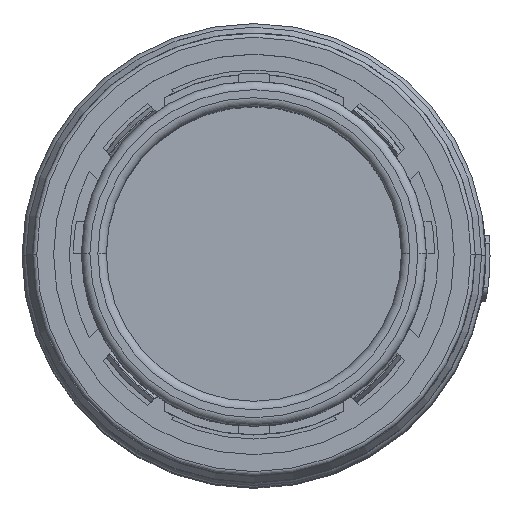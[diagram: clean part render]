
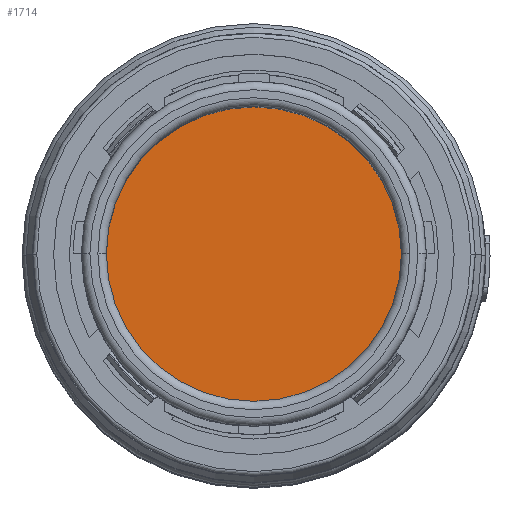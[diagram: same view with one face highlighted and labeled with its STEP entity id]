
A CAD part, top view. The second image highlights one B-rep face of the part: STEP entity #1714.
In plain terms, the highlighted planar face has unit normal (0, 0, 1).
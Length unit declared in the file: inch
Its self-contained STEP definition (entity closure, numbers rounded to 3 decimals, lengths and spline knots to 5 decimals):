
#80 = CARTESIAN_POINT ( 'NONE',  ( 0., 0., -0.99353 ) ) ;
#88 = CIRCLE ( 'NONE', #7275, 0.35 ) ;
#491 = VERTEX_POINT ( 'NONE', #11677 ) ;
#529 = DIRECTION ( 'NONE',  ( 0., 0., -1. ) ) ;
#640 = ORIENTED_EDGE ( 'NONE', *, *, #1780, .F. ) ;
#1714 = ADVANCED_FACE ( 'NONE', ( #15282 ), #15132, .F. ) ;
#1780 = EDGE_CURVE ( 'NONE', #5288, #491, #88, .T. ) ;
#2114 = DIRECTION ( 'NONE',  ( 0., 0., -1. ) ) ;
#2609 = EDGE_LOOP ( 'NONE', ( #640, #7367 ) ) ;
#3426 = DIRECTION ( 'NONE',  ( 0., 0., -1. ) ) ;
#4016 = CARTESIAN_POINT ( 'NONE',  ( 0., 0., -0.99353 ) ) ;
#4665 = CARTESIAN_POINT ( 'NONE',  ( 0., 0., -0.99353 ) ) ;
#5288 = VERTEX_POINT ( 'NONE', #10404 ) ;
#6929 = AXIS2_PLACEMENT_3D ( 'NONE', #4016, #529, #13570 ) ;
#7275 = AXIS2_PLACEMENT_3D ( 'NONE', #4665, #2114, #13054 ) ;
#7367 = ORIENTED_EDGE ( 'NONE', *, *, #13122, .F. ) ;
#7917 = CIRCLE ( 'NONE', #6929, 0.35 ) ;
#8228 = DIRECTION ( 'NONE',  ( -1., 0., 0. ) ) ;
#10404 = CARTESIAN_POINT ( 'NONE',  ( 0.35, 0., -0.99353 ) ) ;
#11499 = AXIS2_PLACEMENT_3D ( 'NONE', #80, #3426, #8228 ) ;
#11677 = CARTESIAN_POINT ( 'NONE',  ( -0.35, 0., -0.99353 ) ) ;
#13054 = DIRECTION ( 'NONE',  ( -1., 0., 0. ) ) ;
#13122 = EDGE_CURVE ( 'NONE', #491, #5288, #7917, .T. ) ;
#13570 = DIRECTION ( 'NONE',  ( -1., 0., 0. ) ) ;
#15132 = PLANE ( 'NONE',  #11499 ) ;
#15282 = FACE_OUTER_BOUND ( 'NONE', #2609, .T. ) ;
